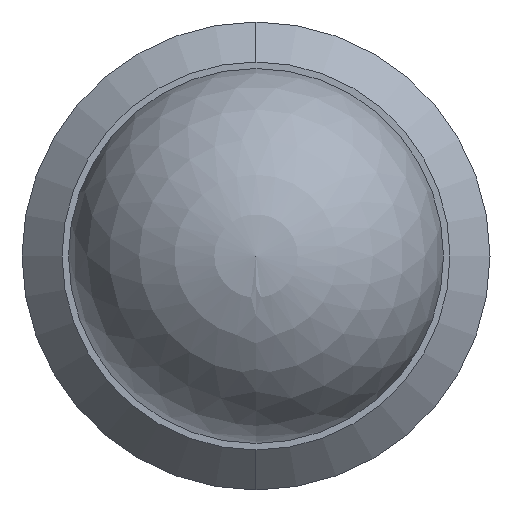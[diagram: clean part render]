
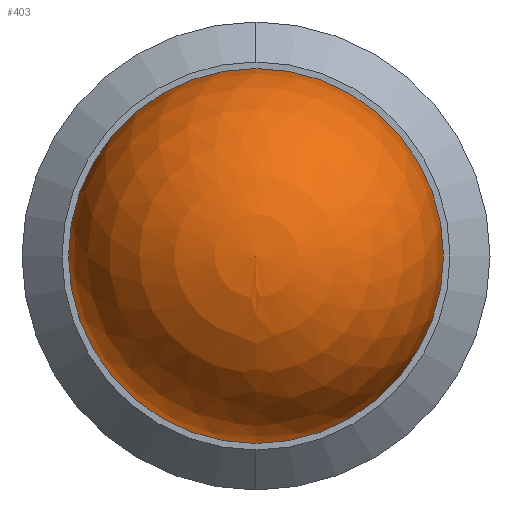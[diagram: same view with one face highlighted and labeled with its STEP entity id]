
A CAD part, left-side view. The second image highlights one B-rep face of the part: STEP entity #403.
In plain terms, the highlighted spherical face has radius 1.191 mm.
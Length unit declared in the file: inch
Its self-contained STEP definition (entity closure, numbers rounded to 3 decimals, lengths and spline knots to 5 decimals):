
#58 = EDGE_CURVE ( 'NONE', #426, #191, #525, .T. ) ;
#59 = CIRCLE ( 'NONE', #429, 0.04688 ) ;
#78 = EDGE_CURVE ( 'NONE', #426, #191, #59, .T. ) ;
#146 = ORIENTED_EDGE ( 'NONE', *, *, #58, .F. ) ;
#161 = CARTESIAN_POINT ( 'NONE',  ( 0., 0.04688, 0. ) ) ;
#181 = DIRECTION ( 'NONE',  ( 0., 0., -1. ) ) ;
#187 = CARTESIAN_POINT ( 'NONE',  ( 0., 0., 0. ) ) ;
#191 = VERTEX_POINT ( 'NONE', #389 ) ;
#194 = EDGE_LOOP ( 'NONE', ( #146, #351 ) ) ;
#200 = DIRECTION ( 'NONE',  ( 1., 0., 0. ) ) ;
#203 = AXIS2_PLACEMENT_3D ( 'NONE', #187, #200, #181 ) ;
#341 = SPHERICAL_SURFACE ( 'NONE', #203, 0.04688 ) ;
#351 = ORIENTED_EDGE ( 'NONE', *, *, #78, .T. ) ;
#389 = CARTESIAN_POINT ( 'NONE',  ( 0., -0.04688, 0. ) ) ;
#403 = ADVANCED_FACE ( 'NONE', ( #584 ), #341, .T. ) ;
#426 = VERTEX_POINT ( 'NONE', #161 ) ;
#429 = AXIS2_PLACEMENT_3D ( 'NONE', #499, #493, #492 ) ;
#432 = AXIS2_PLACEMENT_3D ( 'NONE', #511, #510, #509 ) ;
#492 = DIRECTION ( 'NONE',  ( 0., 0., 1. ) ) ;
#493 = DIRECTION ( 'NONE',  ( -1., 0., 0. ) ) ;
#499 = CARTESIAN_POINT ( 'NONE',  ( 0., 0., 0. ) ) ;
#509 = DIRECTION ( 'NONE',  ( 0., 0., -1. ) ) ;
#510 = DIRECTION ( 'NONE',  ( 1., 0., 0. ) ) ;
#511 = CARTESIAN_POINT ( 'NONE',  ( 0., 0., 0. ) ) ;
#525 = CIRCLE ( 'NONE', #432, 0.04688 ) ;
#584 = FACE_OUTER_BOUND ( 'NONE', #194, .T. ) ;
